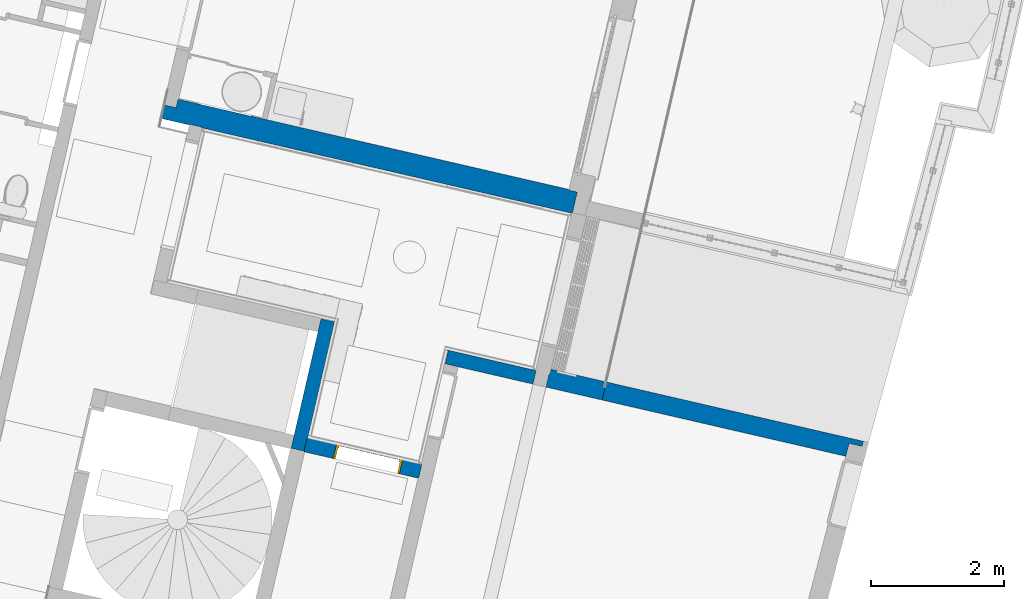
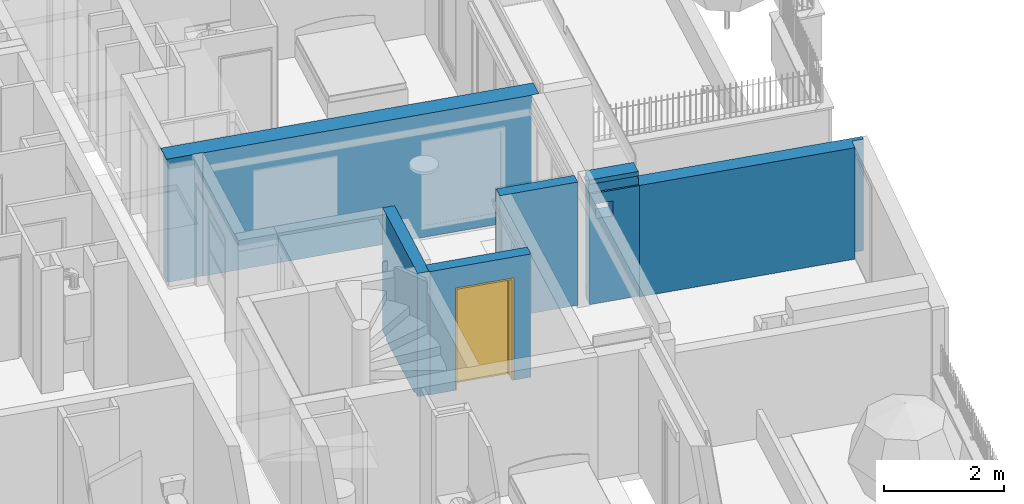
# One storey, part 56 of 119: 6 walls, 1 door, 2 openings.
"""IFC2X3 building model written with IfcOpenShell, lengths in metres."""

from ifc_helpers import new_model, entity, si_unit, converted_unit, derived_unit, money_unit, direction, frame, origin_with_axes, place, context, subcontext, project, spatial, faceted_brep, material, material_list, type_object, element, fill, save


model = new_model("IFC2X3")

# Units and contexts
model_context = context("Model", 3, precision=1e-05, world=origin_with_axes(), true_north=direction((0.0, 1.0)))
body_context = subcontext(model_context, "Body", "Model", "MODEL_VIEW")
ifc_project = project(units=[si_unit("LENGTHUNIT", "METRE"), si_unit("AREAUNIT", "SQUARE_METRE"), si_unit("VOLUMEUNIT", "CUBIC_METRE"), converted_unit("PLANEANGLEUNIT", "DEGREE", entity("IfcPlaneAngleMeasure", 0.0174532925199), si_unit("PLANEANGLEUNIT", "RADIAN"), dimensions=[0, 0, 0, 0, 0, 0, 0]), si_unit("SOLIDANGLEUNIT", "STERADIAN"), money_unit("EUR"), converted_unit("TIMEUNIT", "Year", entity("IfcTimeMeasure", 31556926.0), si_unit("TIMEUNIT", "SECOND"), dimensions=[0, 0, 1, 0, 0, 0, 0]), si_unit("MASSUNIT", "GRAM", prefix="KILO"), si_unit("THERMODYNAMICTEMPERATUREUNIT", "DEGREE_CELSIUS"), si_unit("LUMINOUSINTENSITYUNIT", "LUMEN"), si_unit("ENERGYUNIT", "JOULE", prefix="MEGA"), derived_unit("THERMALCONDUCTANCEUNIT", [(si_unit("POWERUNIT", "WATT"), 1), (si_unit("LENGTHUNIT", "METRE"), -1), (si_unit("THERMODYNAMICTEMPERATUREUNIT", "KELVIN"), -1)]), derived_unit("SPECIFICHEATCAPACITYUNIT", [(si_unit("ENERGYUNIT", "JOULE"), 1), (si_unit("MASSUNIT", "GRAM", prefix="KILO"), -1), (si_unit("THERMODYNAMICTEMPERATUREUNIT", "KELVIN"), -1)]), derived_unit("MASSDENSITYUNIT", [(si_unit("MASSUNIT", "GRAM", prefix="KILO"), 1), (si_unit("VOLUMEUNIT", "CUBIC_METRE"), -1)])], contexts=[model_context])

# Site, building, storey
site_placement = place(None, origin_with_axes())
site = spatial("IfcSite", under=ifc_project, at=site_placement, Name="Site", CompositionType="ELEMENT")
building_placement = place(site_placement, origin_with_axes())
building = spatial("IfcBuilding", under=site, at=building_placement, Name="Bâtiment", CompositionType="ELEMENT")
storey_placement = place(building_placement, origin_with_axes())
storey = spatial("IfcBuildingStorey", under=building, at=storey_placement, Name="Rez-de-chaussée", CompositionType="ELEMENT", Elevation=0.0)

# Wall, opening, door
ifc_material_1 = material(Name="Finition int - Enduit plâtre")
ifc_material_2 = material(Name="Béton")
ifc_material_list_1 = material_list([ifc_material_1, ifc_material_2, ifc_material_1])
wall_type_1 = type_object("IfcWallType", Name="2 - Murs Béton 20 + Enduit 2 Faces  220", PredefinedType="USERDEFINED")
wall_1_placement = place(storey_placement, frame((-5.69930898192, -7.09790154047, 0.0), z_axis=(0.0, 0.0, 1.0), x_axis=(-0.974387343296, 0.224876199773, 0.0)))
wall_1 = element("IfcWall", 1, at=wall_1_placement, inside=storey, type_object=wall_type_1, material=ifc_material_list_1, Name="M_Ext-009", ObjectType="SOLIDWALL", context=body_context, shape_type="Brep", body=[
    faceted_brep([(1.51979754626, 0.0, 2.085), (1.51979754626, 0.0, 0.0), (1.96499999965, 0.0, 0.0), (1.96499999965, 0.0, 2.51), (0.209999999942, 0.0, 2.51), (0.209999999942, 0.0, 0.0), (0.499797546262, 0.0, 0.0), (0.499797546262, 0.0, 2.085), (1.51979754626, 0.01, 2.085), (1.51979754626, 0.01, 0.0), (1.96499999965, 0.01, 0.0), (1.96499999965, 0.01, 2.51), (0.209999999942, 0.01, 2.51), (0.209999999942, 0.01, 0.0), (0.499797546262, 0.01, 0.0), (0.499797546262, 0.01, 2.085)], [[[0, 1, 2, 3, 4, 5, 6, 7]], [[1, 0, 8, 9]], [[1, 9, 10, 2]], [[3, 2, 10, 11]], [[4, 3, 11, 12]], [[12, 13, 5, 4]], [[14, 6, 5, 13]], [[7, 6, 14, 15]], [[0, 7, 15, 8]], [[15, 14, 13, 12, 11, 10, 9, 8]]]),
    faceted_brep([(1.51979754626, -0.2, 2.085), (1.51979754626, -0.2, 0.0), (1.97499999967, -0.2, 0.0), (1.97499999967, -0.2, 2.51), (0.19999999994, -0.2, 2.51), (0.19999999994, -0.2, 0.0), (0.499797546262, -0.2, 0.0), (0.499797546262, -0.2, 2.085), (1.51979754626, 0.0, 2.085), (1.51979754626, 0.0, 0.0), (1.97499999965, 0.0, 0.0), (1.97499999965, 0.0, 2.51), (0.199999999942, 0.0, 2.51), (0.199999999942, 0.0, 0.0), (0.499797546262, 0.0, 0.0), (0.499797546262, 0.0, 2.085)], [[[0, 1, 2, 3, 4, 5, 6, 7]], [[1, 0, 8, 9]], [[1, 9, 10, 2]], [[3, 2, 10, 11]], [[4, 3, 11, 12]], [[12, 13, 5, 4]], [[14, 6, 5, 13]], [[7, 6, 14, 15]], [[0, 7, 15, 8]], [[15, 14, 13, 12, 11, 10, 9, 8]]]),
    faceted_brep([(1.51979754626, -0.21, 2.085), (1.51979754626, -0.21, 0.0), (1.96499999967, -0.21, 0.0), (1.96500002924, -0.21, 2.377), (0.210000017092, -0.21, 2.377), (0.209999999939, -0.21, 0.0), (0.499797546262, -0.21, 0.0), (0.499797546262, -0.21, 2.085), (1.51979754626, -0.199999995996, 2.085), (1.51979754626, -0.2, 0.0), (1.96499999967, -0.2, 0.0), (1.96500002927, -0.199999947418, 2.377), (0.210000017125, -0.199999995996, 2.377), (0.20999999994, -0.2, 0.0), (0.499797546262, -0.2, 0.0), (0.499797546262, -0.199999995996, 2.085)], [[[0, 1, 2, 3, 4, 5, 6, 7]], [[1, 0, 8, 9]], [[1, 9, 10, 2]], [[3, 2, 10, 11]], [[4, 3, 11, 12]], [[12, 13, 5, 4]], [[14, 6, 5, 13]], [[7, 6, 14, 15]], [[0, 7, 15, 8]], [[15, 14, 13, 12, 11, 10, 9, 8]]]),
])
opening_1_placement = place(wall_1_placement, frame((1.00979754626, 0.0, 0.0), z_axis=(0.0, 0.0, 1.0), x_axis=(1.0, 0.0, 0.0)))
opening_1 = element("IfcOpeningElement", 2, at=opening_1_placement, cuts=wall_1, Name="Porte 93x204 bois CF", context=body_context, shape_type="Brep", body=[
    faceted_brep([(0.51, -0.22, 0.0), (-0.51, -0.22, 0.0), (-0.51, 0.22, 0.0), (0.51, 0.22, 0.0), (0.51, -0.22, 2.085), (-0.51, -0.22, 2.085), (-0.51, 0.22, 2.085), (0.51, 0.22, 2.085)], [[[0, 1, 2, 3]], [[0, 4, 5, 1]], [[1, 5, 6, 2]], [[3, 2, 6, 7]], [[4, 0, 3, 7]], [[5, 4, 7, 6]]]),
])
door_style = type_object("IfcDoorStyle", Name="Porte int générique 2019", ConstructionType="NOTDEFINED", OperationType="SINGLE_SWING_LEFT", ParameterTakesPrecedence=False, Sizeable=False)
door_placement = place(opening_1_placement, frame((0.465, 0.0, 0.0), z_axis=(0.0, 0.0, 1.0), x_axis=(-1.0, 0.0, 0.0)))
door = element("IfcDoor", 3, at=door_placement, inside=storey, type_object=door_style, Name="Porte 93x204 bois CF", ObjectType="DOOR", OverallHeight=2.04, OverallWidth=0.93, context=body_context, shape_type="Brep", body=[
    faceted_brep([(-0.045, 0.21, 0.0), (-0.045, 0.21, 2.085), (0.975, 0.21, 2.085), (0.975, 0.21, 0.0), (0.945, 0.21, 0.0), (0.945, 0.21, 2.055), (-0.015, 0.21, 2.055), (-0.015, 0.21, 0.0), (-0.045, -0.01, 0.0), (-0.045, -0.01, 2.085), (0.975, -0.01, 2.085), (0.975, -0.01, 0.0), (0.945, -0.01, 0.0), (0.945, 0.165, 0.0), (0.93, 0.165, 0.0), (0.93, 0.195, 0.0), (0.945, 0.195, 0.0), (0.945, 0.195, 2.055), (-0.015, 0.195, 2.055), (-0.015, 0.195, 0.0), (0.0, 0.195, 0.0), (0.0, 0.165, 0.0), (-0.015, 0.165, 0.0), (-0.015, -0.01, 0.0), (-0.015, -0.01, 2.055), (0.945, -0.01, 2.055), (0.945, 0.165, 2.055), (0.0, 0.165, 2.04), (0.93, 0.165, 2.04), (-0.015, 0.165, 2.055), (0.93, 0.195, 2.04), (0.0, 0.195, 2.04)], [[[0, 1, 2, 3, 4, 5, 6, 7]], [[8, 9, 1, 0]], [[9, 10, 2, 1]], [[10, 11, 3, 2]], [[3, 11, 12, 13, 14, 15, 16, 4]], [[5, 4, 16, 17]], [[6, 5, 17, 18]], [[7, 6, 18, 19]], [[0, 7, 19, 20, 21, 22, 23, 8]], [[23, 24, 25, 12, 11, 10, 9, 8]], [[26, 13, 12, 25]], [[21, 27, 28, 14, 13, 26, 29, 22]], [[30, 15, 14, 28]], [[19, 18, 17, 16, 15, 30, 31, 20]], [[20, 31, 27, 21]], [[22, 29, 24, 23]], [[29, 26, 25, 24]], [[31, 30, 28, 27]]]),
    faceted_brep([(-0.015, 0.235, 0.0), (0.945, 0.235, 0.0), (0.945, 0.195, 0.0), (-0.015, 0.195, 0.0), (-0.015, 0.235, 2.055), (0.945, 0.235, 2.055), (0.945, 0.195, 2.055), (-0.015, 0.195, 2.055)], [[[0, 1, 2, 3]], [[0, 4, 5, 1]], [[1, 5, 6, 2]], [[3, 2, 6, 7]], [[4, 0, 3, 7]], [[5, 4, 7, 6]]]),
])
fill(opening_1, door)

# Walls
ifc_material_list_2 = material_list([ifc_material_2, ifc_material_1])
wall_type_2 = type_object("IfcWallType", Name="2 - Murs Béton 20 + Enduit 1 Face  210", PredefinedType="USERDEFINED")
wall_2_placement = place(storey_placement, frame((-3.97876753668, -5.68871741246, 0.0), z_axis=(0.0, 0.0, 1.0), x_axis=(-0.974387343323, 0.224876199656, 0.0)))
element("IfcWall", 4, at=wall_2_placement, inside=storey, type_object=wall_type_2, material=ifc_material_list_2, Name="M_Ext-009", ObjectType="SOLIDWALL", context=body_context, shape_type="Brep", body=[
    faceted_brep([(1.55958183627, -0.2, 0.0), (1.55958183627, -0.2, 2.51), (0.199999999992, -0.2, 2.51), (0.199999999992, -0.2, 0.0), (1.55958183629, 0.0, 0.0), (1.55958183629, 0.0, 2.51), (0.2, -1.78814101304e-08, 2.51), (0.2, -1.78814101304e-08, 0.0)], [[[0, 1, 2, 3]], [[4, 5, 1, 0]], [[5, 6, 2, 1]], [[3, 2, 6, 7]], [[4, 0, 3, 7]], [[7, 6, 5, 4]]]),
    faceted_brep([(0.0, -1.78814101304e-08, 2.51), (0.0, -0.107999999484, 2.51), (0.0, -0.107999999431, 2.51999999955), (0.0, 0.0, 2.51999999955), (0.0680000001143, -1.78814101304e-08, 2.51), (0.0679999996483, -0.107999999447, 2.51), (0.0679999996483, -0.107999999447, 2.51999999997), (0.0679999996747, 0.0, 2.51999999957)], [[[0, 1, 2, 3]], [[4, 5, 1, 0]], [[5, 6, 2, 1]], [[3, 2, 6, 7]], [[3, 7, 4, 0]], [[7, 6, 5, 4]]]),
    faceted_brep([(1.56958183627, -0.21, 2.51), (0.209999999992, -0.21, 2.51), (0.209999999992, -0.21, 0.0), (1.56958183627, -0.21, 0.0), (0.209999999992, -0.2, 2.51), (1.56958183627, -0.2, 2.51), (0.209999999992, -0.2, 0.0), (1.56958183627, -0.2, 0.0)], [[[0, 1, 2, 3]], [[4, 1, 0, 5]], [[1, 4, 6, 2]], [[3, 2, 6, 7]], [[5, 0, 3, 7]], [[4, 5, 7, 6]]]),
])
ifc_material_list_3 = material_list([ifc_material_1, ifc_material_2])
wall_3_placement = place(storey_placement, frame((-7.41382429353, -4.85489858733, -0.05), z_axis=(0.0, 0.0, 1.0), x_axis=(-0.224876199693, -0.974387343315, 0.0)))
element("IfcWall", 5, at=wall_3_placement, inside=storey, type_object=wall_type_2, material=ifc_material_list_3, Name="M_Ext-009", ObjectType="SOLIDWALL", context=body_context, shape_type="Brep", body=[
    faceted_brep([(-0.210000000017, 0.2, 2.56), (-0.210000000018, 0.21, 2.56), (-0.210000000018, 0.21, 0.05), (-0.210000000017, 0.2, 0.05), (1.81000000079, 0.21, 2.56), (1.81000000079, 0.2, 2.56), (1.81000000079, 0.21, 0.05), (1.6000000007, 0.21, 0.0500000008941), (1.6000000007, 0.21, 0.0), (0.0, 0.21, 0.0), (0.0, 0.21, 0.0500000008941), (0.0, 0.2, 0.0500000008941), (0.0, 0.2, 0.0), (1.6000000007, 0.2, 0.0), (1.6000000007, 0.2, 0.0500000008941), (1.81000000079, 0.2, 0.05)], [[[0, 1, 2, 3]], [[4, 1, 0, 5]], [[1, 4, 6, 7, 8, 9, 10, 2]], [[11, 3, 2, 10]], [[5, 0, 3, 11, 12, 13, 14, 15]], [[4, 5, 15, 6]], [[7, 6, 15, 14]], [[13, 8, 7, 14]], [[9, 8, 13, 12]], [[11, 10, 9, 12]]]),
    faceted_brep([(-0.2, 0.0, 2.56), (-0.200000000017, 0.2, 2.56), (-0.200000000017, 0.2, 0.05), (-0.2, 0.0, 0.05), (1.80000000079, 0.2, 2.56), (0.0, 0.0, 2.56), (1.6000000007, 0.0, 2.56), (1.80000000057, -1.09074527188e-10, 2.56), (1.80000000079, 0.2, 0.05), (1.6000000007, 0.2, 0.0500000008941), (1.6000000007, 0.2, 0.0), (0.0, 0.2, 0.0), (0.0, 0.2, 0.0500000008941), (0.0, 0.0, 0.0500000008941), (0.0, 0.0, 0.0), (1.6000000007, 0.0, 0.0), (1.6000000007, 0.0, 0.0500000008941), (1.8000000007, 0.0, 0.05)], [[[0, 1, 2, 3]], [[4, 1, 0, 5, 6, 7]], [[1, 4, 8, 9, 10, 11, 12, 2]], [[13, 3, 2, 12]], [[5, 0, 3, 13, 14, 15, 16, 17, 7, 6]], [[4, 7, 17, 8]], [[9, 8, 17, 16]], [[16, 15, 10, 9]], [[14, 11, 10, 15]], [[14, 13, 12, 11]]]),
])
ifc_material_3 = material(Name="Finition int - Plaque de plâtre")
ifc_material_4 = material(Name="Isolation - Polystyrène extrudé")
ifc_material_list_4 = material_list([ifc_material_3, ifc_material_4, ifc_material_2, ifc_material_1])
wall_type_3 = type_object("IfcWallType", Name="2 - Murs Béton 20 + Isolant 120 + Enduit 1 Faces 340", PredefinedType="USERDEFINED")
wall_4_placement = place(storey_placement, frame((-9.78378248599, -1.62933617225, 0.0), z_axis=(0.0, 0.0, 1.0), x_axis=(0.974387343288, -0.224876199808, 0.0)))
element("IfcWall", 6, at=wall_4_placement, inside=storey, type_object=wall_type_3, material=ifc_material_list_4, Name="M_Ext-008", ObjectType="SOLIDWALL", context=body_context, shape_type="Brep", body=[
    faceted_brep([(0.0, 0.32, 2.50999999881), (6.50119125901, 0.32, 2.51), (6.50119125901, 0.33, 2.51), (0.0, 0.33, 2.50999999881), (6.36919127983, 0.32, 2.50955001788), (6.50119125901, 0.32, 2.50955), (0.0, 0.32, 2.5), (0.00999999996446, 0.32, 2.5), (0.189999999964, 0.32, 2.5), (0.189999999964, 0.32, 0.0), (6.24919124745, 0.32, 0.0), (6.24919124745, 0.32, 0.133633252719), (6.24919124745, 0.32, 0.160000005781), (6.24919124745, 0.32, 0.169414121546), (6.24919124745, 0.32, 0.176532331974), (6.24919124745, 0.32, 0.207793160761), (6.24919124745, 0.32, 2.50955001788), (6.50119125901, 0.33, 2.50955), (6.36919127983, 0.33, 2.50955001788), (6.24919124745, 0.33, 2.50955001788), (6.24919124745, 0.33, 0.207793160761), (6.24919124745, 0.33, 0.176532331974), (6.24919124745, 0.33, 0.169414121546), (6.24919124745, 0.33, 0.160000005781), (6.24919124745, 0.33, 0.133633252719), (6.24919124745, 0.33, 0.0), (0.189999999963, 0.33, 0.0), (0.189999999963, 0.33, 2.5), (0.00999999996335, 0.33, 2.5), (0.0, 0.33, 2.5)], [[[0, 1, 2, 3]], [[4, 5, 1, 0, 6, 7, 8, 9, 10, 11, 12, 13, 14, 15, 16]], [[5, 17, 2, 1]], [[3, 2, 17, 18, 19, 20, 21, 22, 23, 24, 25, 26, 27, 28, 29]], [[0, 3, 29, 6]], [[18, 17, 5, 4]], [[29, 28, 7, 6]], [[7, 28, 27, 8]], [[8, 27, 26, 9]], [[9, 26, 25, 10]], [[25, 24, 11, 10]], [[24, 23, 12, 11]], [[12, 23, 22, 13]], [[13, 22, 21, 14]], [[15, 14, 21, 20]], [[19, 16, 15, 20]], [[18, 4, 16, 19]]]),
    faceted_brep([(0.0, 0.2, 2.50999999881), (6.50119125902, 0.2, 2.51), (6.50119125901, 0.32, 2.51), (0.0, 0.32, 2.50999999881), (6.36919126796, 0.2, 2.50955001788), (6.50119125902, 0.2, 2.50955), (0.0, 0.2, 2.5), (0.00999999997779, 0.2, 2.5), (0.189999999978, 0.2, 2.5), (0.189999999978, 0.2, 0.0), (6.36919126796, 0.2, 0.0), (6.36919126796, 0.2, 0.133633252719), (6.36919126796, 0.2, 0.160000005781), (6.36919126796, 0.2, 0.169414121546), (6.36919126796, 0.2, 0.176532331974), (6.36919126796, 0.2, 0.207793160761), (6.50119125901, 0.32, 2.50955), (6.36919126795, 0.32, 2.50955001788), (6.36919126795, 0.32, 0.207793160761), (6.36919126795, 0.32, 0.176532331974), (6.36919126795, 0.32, 0.169414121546), (6.36919126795, 0.32, 0.160000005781), (6.36919126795, 0.32, 0.133633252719), (6.36919126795, 0.32, 0.0), (0.189999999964, 0.32, 0.0), (0.189999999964, 0.32, 2.5), (0.00999999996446, 0.32, 2.5), (0.0, 0.32, 2.5)], [[[0, 1, 2, 3]], [[4, 5, 1, 0, 6, 7, 8, 9, 10, 11, 12, 13, 14, 15]], [[5, 16, 2, 1]], [[3, 2, 16, 17, 18, 19, 20, 21, 22, 23, 24, 25, 26, 27]], [[27, 6, 0, 3]], [[17, 16, 5, 4]], [[7, 6, 27, 26]], [[25, 8, 7, 26]], [[24, 9, 8, 25]], [[24, 23, 10, 9]], [[23, 22, 11, 10]], [[11, 22, 21, 12]], [[20, 13, 12, 21]], [[20, 19, 14, 13]], [[15, 14, 19, 18]], [[17, 4, 15, 18]]]),
    faceted_brep([(0.0, 0.0, 2.50999999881), (6.50119125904, 0.0, 2.51), (6.50119125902, 0.2, 2.51), (0.0, 0.2, 2.50999999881), (6.36919126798, 0.0, 2.50955001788), (6.50119125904, 0.0, 2.50955), (0.0, 0.0, 2.5), (0.01, 0.0, 2.5), (0.01, 0.0, 0.0), (6.36919126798, 0.0, 0.0), (6.36919126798, 0.0, 0.133633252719), (6.36919126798, 0.0, 0.160000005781), (6.36919126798, 0.0, 0.169414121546), (6.36919126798, 0.0, 0.176532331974), (6.36919126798, 0.0, 0.207793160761), (6.50119125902, 0.2, 2.50955), (6.36919126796, 0.2, 2.50955001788), (6.36919126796, 0.2, 0.207793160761), (6.36919126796, 0.2, 0.176532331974), (6.36919126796, 0.2, 0.169414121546), (6.36919126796, 0.2, 0.160000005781), (6.36919126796, 0.2, 0.133633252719), (6.36919126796, 0.2, 0.0), (0.00999999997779, 0.2, 0.0), (0.00999999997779, 0.2, 2.5), (0.0, 0.2, 2.5)], [[[0, 1, 2, 3]], [[4, 5, 1, 0, 6, 7, 8, 9, 10, 11, 12, 13, 14]], [[5, 15, 2, 1]], [[3, 2, 15, 16, 17, 18, 19, 20, 21, 22, 23, 24, 25]], [[6, 0, 3, 25]], [[16, 15, 5, 4]], [[24, 7, 6, 25]], [[23, 8, 7, 24]], [[23, 22, 9, 8]], [[22, 21, 10, 9]], [[10, 21, 20, 11]], [[19, 12, 11, 20]], [[19, 18, 13, 12]], [[14, 13, 18, 17]], [[16, 4, 14, 17]]]),
    faceted_brep([(0.634609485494, 0.0, 2.50999999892), (6.36919132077, 0.0, 2.50999999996), (6.36919132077, 0.0, 0.0), (0.634609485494, 0.0, 0.0), (0.634609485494, -0.01, 2.50999999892), (6.36919132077, -0.01, 2.50999999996), (6.36919132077, -0.01, 0.0), (0.634609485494, -0.01, 0.0)], [[[0, 1, 2, 3]], [[4, 5, 1, 0]], [[5, 6, 2, 1]], [[3, 2, 6, 7]], [[4, 0, 3, 7]], [[7, 6, 5, 4]]]),
    faceted_brep([(0.015, 0.0, 2.5), (0.01, 0.0, 2.5), (0.0, 0.0, 2.5), (0.0, 0.0, 2.50999999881), (0.454609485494, 0.0, 2.50999999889), (0.454609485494, 0.0, 0.0), (0.015, 0.0, 0.0), (0.0149999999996, -0.01, 2.5), (0.0, -0.01, 2.5), (0.0, -0.01, 2.50999999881), (0.454609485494, -0.01, 2.50999999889), (0.454609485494, -0.01, 0.0), (0.0149999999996, -0.01, 0.0)], [[[0, 1, 2, 3, 4, 5, 6]], [[2, 1, 0, 7, 8]], [[3, 2, 8, 9]], [[9, 10, 4, 3]], [[10, 11, 5, 4]], [[11, 12, 6, 5]], [[7, 0, 6, 12]], [[8, 7, 12, 11, 10, 9]]]),
])
ifc_material_5 = material(Name="Pierre")
ifc_material_list_5 = material_list([ifc_material_5, ifc_material_2])
wall_type_4 = type_object("IfcWallType", Name="1 - Mur BETON 20+ PAREMENT PIERRE 280", PredefinedType="ELEMENTEDWALL")
wall_5_placement = place(storey_placement, frame((-3.06729724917, -5.61171310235, -0.05), z_axis=(0.0, 0.0, 1.0), x_axis=(0.974387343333, -0.224876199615, 0.0)))
element("IfcWall", 7, at=wall_5_placement, inside=storey, type_object=wall_type_4, material=ifc_material_list_5, Name="M_Ext-007", ObjectType="ELEMENTEDWALL", context=body_context, shape_type="Brep", body=[
    faceted_brep([(0.0, -0.08, 2.27), (3.97155507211, -0.08, 2.27), (3.97380168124, 0.0, 2.27), (0.0, 0.0, 2.27), (0.0, -0.08, 0.0), (3.97155507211, -0.08, 0.0), (3.97380168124, 0.0, 0.0), (0.0, 0.0, 0.0)], [[[0, 1, 2, 3]], [[4, 5, 1, 0]], [[5, 6, 2, 1]], [[3, 2, 6, 7]], [[3, 7, 4, 0]], [[7, 6, 5, 4]]]),
    faceted_brep([(0.0, -0.28, 2.27), (3.76585970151, -0.28, 2.27), (3.77147622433, -0.08, 2.27), (0.0, -0.08, 2.27), (0.0, -0.28, 0.0), (3.76585970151, -0.28, 0.0), (3.77147622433, -0.08, 0.0), (0.0, -0.08, 0.0)], [[[0, 1, 2, 3]], [[4, 5, 1, 0]], [[5, 6, 2, 1]], [[3, 2, 6, 7]], [[3, 7, 4, 0]], [[7, 6, 5, 4]]]),
])

# Wall, opening
wall_type_5 = type_object("IfcWallType", Name="1 - Mur BETON 20+ PAREMENT PIERRE 280", PredefinedType="STANDARD")
wall_6_placement = place(storey_placement, frame((-3.91580220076, -5.41588895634, -0.03), z_axis=(0.0, 0.0, 1.0), x_axis=(0.974387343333, -0.224876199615, 0.0)))
wall_6 = element("IfcWall", 8, at=wall_6_placement, inside=storey, type_object=wall_type_5, material=ifc_material_list_5, Name="M_Ext-007", ObjectType="STANDARD", context=body_context, shape_type="Brep", body=[
    faceted_brep([(0.015, 0.0, 2.54), (0.855808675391, -5.18786791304e-10, 2.54), (0.855808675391, 0.0, 2.375), (0.870808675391, 1.26095578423e-09, 2.375), (0.870808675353, 0.0, 2.25), (0.870808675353, -1.11758833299e-08, 0.0), (0.015, -3.07599634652e-09, 0.0), (0.408299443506, 0.0, 2.03), (0.108299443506, 0.0, 2.03), (0.108299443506, 0.0, 1.73), (0.408299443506, 0.0, 1.73), (0.0149999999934, -0.08, 2.54), (0.855808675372, -0.080000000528, 2.54), (0.855808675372, -0.080000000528, 2.375), (0.870808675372, -0.080000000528, 2.375), (0.870808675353, -0.080000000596, 2.25), (0.870808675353, -0.0799999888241, 0.0), (0.0149999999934, -0.079999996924, 0.0), (0.408299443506, -0.080000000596, 2.03), (0.108299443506, -0.080000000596, 2.03), (0.108299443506, -0.080000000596, 1.73), (0.408299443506, -0.080000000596, 1.73)], [[[0, 1, 2, 3, 4, 5, 6], [7, 8, 9, 10]], [[11, 12, 1, 0]], [[13, 2, 1, 12]], [[13, 14, 3, 2]], [[4, 3, 14, 15]], [[15, 16, 5, 4]], [[16, 17, 6, 5]], [[6, 17, 11, 0]], [[18, 19, 8, 7]], [[19, 20, 9, 8]], [[20, 21, 10, 9]], [[21, 18, 7, 10]], [[14, 13, 12, 11, 17, 16, 15], [18, 21, 20, 19]]]),
    faceted_brep([(0.855808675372, -0.080000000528, 2.375), (0.855808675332, -0.247577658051, 2.375), (0.870808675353, -0.247710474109, 2.375), (0.870808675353, -0.080000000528, 2.375), (0.855808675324, -0.27999999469, 2.45), (0.855808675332, -0.247577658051, 2.45), (0.855808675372, -0.080000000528, 2.54), (0.855808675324, -0.279999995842, 2.54), (-2.00075498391e-08, -0.239999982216, 2.25), (0.870808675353, -0.247710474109, 2.25), (-2.00075498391e-08, -0.239999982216, 2.45), (0.870808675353, -0.080000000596, 2.25), (0.0, -0.079999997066, 0.0), (0.0, -0.08, 2.54), (0.870808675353, -0.0799999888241, 0.0), (0.408299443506, -0.080000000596, 1.73), (0.408299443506, -0.080000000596, 2.03), (0.108299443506, -0.080000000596, 2.03), (0.108299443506, -0.080000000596, 1.73), (-1.98391445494e-08, -0.28, 2.45), (0.0, -0.28, 2.54), (-1.98391441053e-08, -0.28, 2.25), (0.870808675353, -0.28, 2.25), (0.0, -0.28, 0.0), (0.870808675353, -0.28, 0.0), (0.408299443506, -0.28, 1.73), (0.408299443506, -0.28, 2.03), (0.108299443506, -0.28, 2.03), (0.108299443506, -0.28, 1.73)], [[[0, 1, 2, 3]], [[4, 5, 1, 0, 6, 7]], [[8, 9, 2, 1, 5, 10]], [[3, 2, 9, 11]], [[12, 13, 6, 0, 3, 11, 14], [15, 16, 17, 18]], [[10, 5, 4, 19]], [[13, 20, 7, 6]], [[20, 19, 4, 7]], [[21, 22, 9, 8]], [[8, 10, 19, 20, 13, 12, 23, 21]], [[11, 9, 22, 24, 14]], [[14, 24, 23, 12]], [[15, 25, 26, 16]], [[16, 26, 27, 17]], [[17, 27, 28, 18]], [[18, 28, 25, 15]], [[24, 22, 21, 23], [27, 26, 25, 28]]]),
])
opening_2_placement = place(wall_6_placement, frame((2.59760357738, 6.1577443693, 0.03), z_axis=(0.0, 0.0, 1.0), x_axis=(0.974387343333, 0.224876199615, 0.0)))
element("IfcOpeningElement", 9, at=opening_2_placement, cuts=wall_6, Name="PERCEMENT-002", context=body_context, shape_type="Brep", body=[
    faceted_brep([(-4.02097412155, -6.35319415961, 1.7), (-4.02097412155, -6.35319415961, 2.0), (-3.6964969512, -4.9472363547, 2.0), (-3.6964969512, -4.9472363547, 1.7), (-3.71308834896, -6.35319415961, 1.7), (-3.71308834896, -6.35319415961, 2.0), (-3.38861117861, -4.9472363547, 2.0), (-3.38861117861, -4.9472363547, 1.7)], [[[0, 1, 2, 3]], [[0, 4, 5, 1]], [[1, 5, 6, 2]], [[3, 2, 6, 7]], [[4, 0, 3, 7]], [[5, 4, 7, 6]]]),
])

save(model, "model.ifc")
